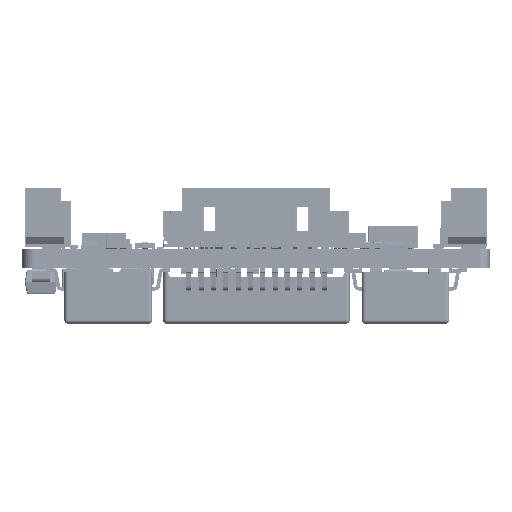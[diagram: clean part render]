
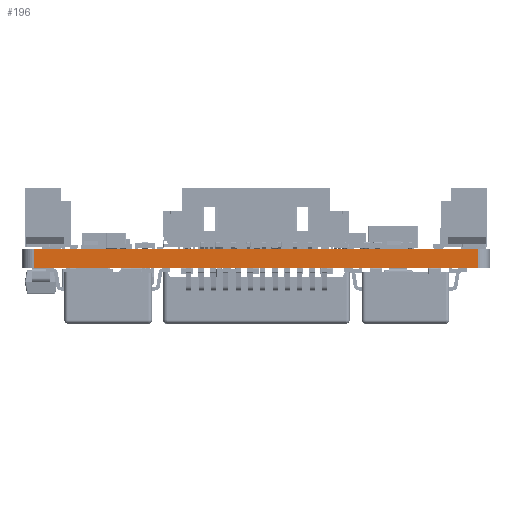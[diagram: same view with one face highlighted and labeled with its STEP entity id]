
A CAD part, front view. The second image highlights one B-rep face of the part: STEP entity #196.
In plain terms, the highlighted planar face has unit normal (0, -1, 0).
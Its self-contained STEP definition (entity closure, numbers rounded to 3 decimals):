
#169 = VERTEX_POINT('',#170);
#170 = CARTESIAN_POINT('',(37.,0.013,    1.6));
#177 = EDGE_CURVE('',#178,#169,#180,.T.);
#178 = VERTEX_POINT('',#179);
#179 = CARTESIAN_POINT('',(37.,0.013,0.));
#180 = LINE('',#181,#182);
#181 = CARTESIAN_POINT('',(37.,0.013,0.));
#182 = VECTOR('',#183,1.);
#183 = DIRECTION('',(0.,0.,1.));
#196 = ADVANCED_FACE('',(#197),#222,.T.);
#197 = FACE_BOUND('',#198,.T.);
#198 = EDGE_LOOP('',(#199,#200,#208,#216));
#199 = ORIENTED_EDGE('',*,*,#177,.T.);
#200 = ORIENTED_EDGE('',*,*,#201,.T.);
#201 = EDGE_CURVE('',#169,#202,#204,.T.);
#202 = VERTEX_POINT('',#203);
#203 = CARTESIAN_POINT('',(1.,0.013,    1.6));
#204 = LINE('',#205,#206);
#205 = CARTESIAN_POINT('',(37.,0.013,    1.6));
#206 = VECTOR('',#207,1.);
#207 = DIRECTION('',(-1.,0.,0.));
#208 = ORIENTED_EDGE('',*,*,#209,.F.);
#209 = EDGE_CURVE('',#210,#202,#212,.T.);
#210 = VERTEX_POINT('',#211);
#211 = CARTESIAN_POINT('',(1.,0.013,0.));
#212 = LINE('',#213,#214);
#213 = CARTESIAN_POINT('',(1.,0.013,0.));
#214 = VECTOR('',#215,1.);
#215 = DIRECTION('',(0.,0.,1.));
#216 = ORIENTED_EDGE('',*,*,#217,.F.);
#217 = EDGE_CURVE('',#178,#210,#218,.T.);
#218 = LINE('',#219,#220);
#219 = CARTESIAN_POINT('',(37.,0.013,0.));
#220 = VECTOR('',#221,1.);
#221 = DIRECTION('',(-1.,0.,0.));
#222 = PLANE('',#223);
#223 = AXIS2_PLACEMENT_3D('',#224,#225,#226);
#224 = CARTESIAN_POINT('',(37.,0.013,0.));
#225 = DIRECTION('',(0.,-1.,0.));
#226 = DIRECTION('',(-1.,0.,0.));
